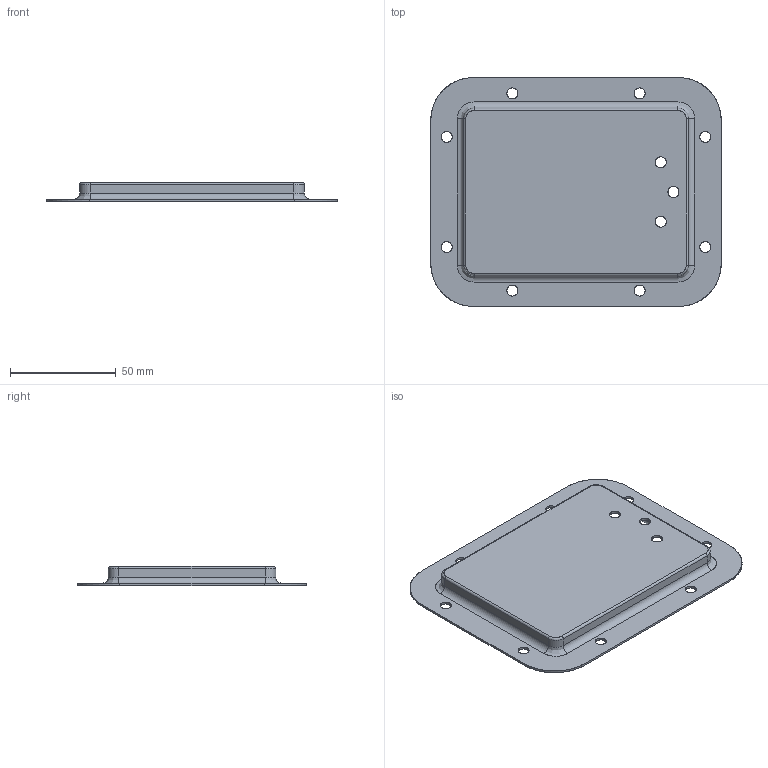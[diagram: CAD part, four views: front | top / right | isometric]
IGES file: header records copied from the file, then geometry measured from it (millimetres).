
Start section: SolidWorks IGES FILE using analytic representation for surfaces
Global section: file name: C:\Documents and Settings\lecoutey\Bureau\GE 1040\1040.011.00.IGS; native system: SolidWorks 2004 by SolidWorks Corporation; preprocessor: Version 5.3; author: lecoutey; date: 050330.085621; units: millimetre
Bounding box: 137 x 108 x 9 mm (x, y, z)
Surface area: 33586.3 mm2 (no closed solid volume)
Topology: 0 solids, 0 shells, 74 faces, 1200 edges, 1200 vertices
Faces by surface type: revolution 46, bspline 28
